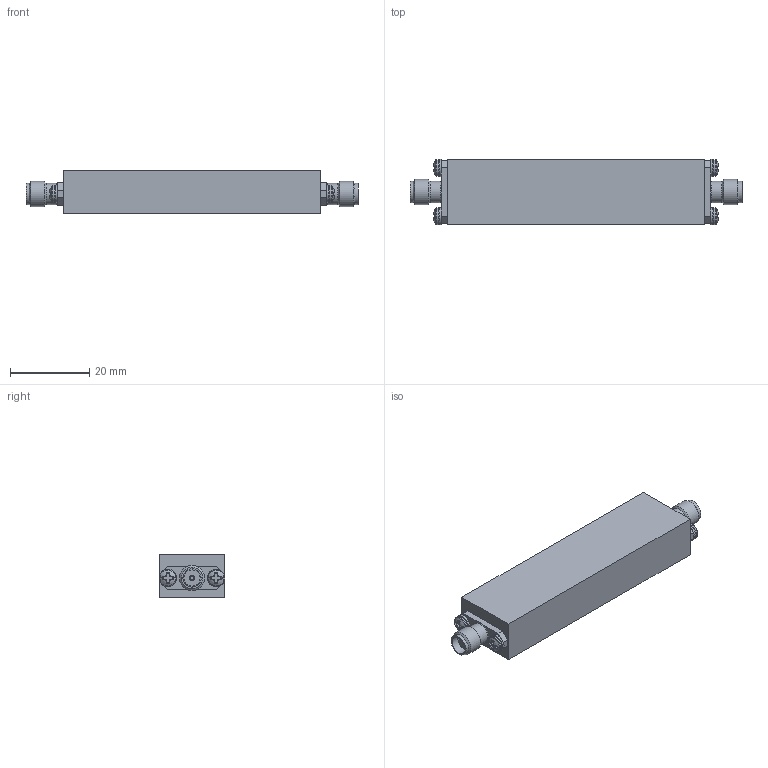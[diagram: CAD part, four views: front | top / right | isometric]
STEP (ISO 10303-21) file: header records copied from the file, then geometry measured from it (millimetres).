
FILE_DESCRIPTION(/* description */ (''),/* implementation_level */ '2;1');
FILE_NAME(/* name */ '\\uesvr4\Engineering\Engineering_Documentation_&_CAD\Source_&_Reference_Files_For_Engineering\Reference_File\3D_Step_Files\UH2851_Rev-OR\UH2851_Rev-OR.stp',/* time_stamp */ '2022-02-05T11:38:12+05:00',/* author */ ('Nandakumar'),/* organization */ (''),/* preprocessor_version */ 'ST-DEVELOPER v18.1',/* originating_system */ 'AutoCAD Mechanical',/* authorisation */ '');
FILE_SCHEMA (('AUTOMOTIVE_DESIGN { 1 0 10303 214 3 1 1 }'));
Length unit declared in the file: inch
Products named in the file (1): Product
Bounding box: 83.95 x 16.64 x 11 mm (x, y, z)
Volume: 12547.5 mm3; surface area: 4671.5 mm2
Topology: 1 solids, 1 shells, 244 faces, 682 edges, 458 vertices
Faces by surface type: plane 116, cylinder 78, cone 24, torus 18, sphere 8
Full cylindrical faces by diameter (mm): 0.94 x2, 1.27 x2, 2.184 x4, 4.089 x2, 4.369 x4, 4.615 x2, 5.377 x4, 6.35 x2
Entity records: 8195 total; most frequent: CARTESIAN_POINT 1901, ORIENTED_EDGE 1364, DIRECTION 1320, EDGE_CURVE 682, AXIS2_PLACEMENT_3D 525, VERTEX_POINT 458, CIRCLE 280, LINE 270
